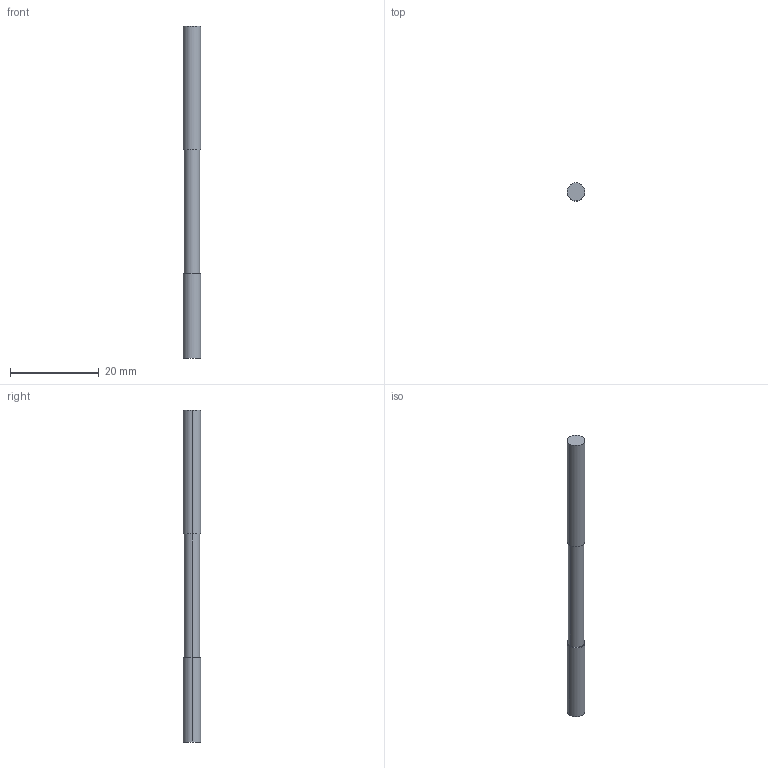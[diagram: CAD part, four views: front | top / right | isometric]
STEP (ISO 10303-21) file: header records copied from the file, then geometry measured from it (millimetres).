
FILE_DESCRIPTION(('STEP AP214'),'1');
FILE_NAME('cctmp_04BD7F54-CE4E-4046-8A6D-9C0BFFABEEBF_2020_10_01_10_13_50_0265..stp','2020-10-01T08:13:50',('Meusburger Georg GmbH & Co KG'),('CADClick - www.CADClick.com'),'Spatial InterOp 3D',' ','unknown authorization');
FILE_SCHEMA(('AUTOMOTIVE_DESIGN { 1 0 10303 214 1 1 1 1 }'));
Length unit declared in the file: millimetre
Products named in the file (1): WZR 302122_4.01
Bounding box: 4.01 x 4.01 x 75 mm (x, y, z)
Volume: 861.2 mm3; surface area: 930.2 mm2
Topology: 1 solids, 1 shells, 10 faces, 18 edges, 12 vertices
Faces by surface type: cylinder 6, plane 4
Entity records: 358 total; most frequent: DIRECTION 52, CARTESIAN_POINT 41, ORIENTED_EDGE 36, AXIS2_PLACEMENT_3D 23, EDGE_CURVE 18, EDGE_LOOP 12, VERTEX_POINT 12, CIRCLE 12
